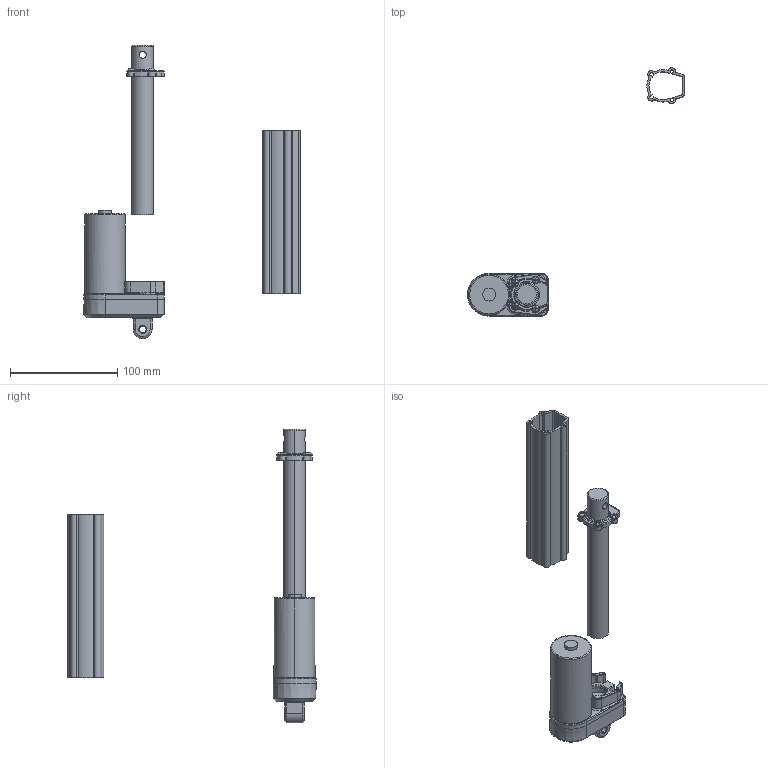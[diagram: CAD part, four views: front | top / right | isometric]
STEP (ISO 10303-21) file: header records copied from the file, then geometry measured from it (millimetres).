
FILE_DESCRIPTION(/* description */ ('Alibre Inc.'),/* implementation_level */ '2;1');
FILE_NAME(/* name */ 'export0',/* time_stamp */ '2008-04-02T09:31:47+02:00',/* author */ (''),/* organization */ (''),/* preprocessor_version */ 'ST-DEVELOPER v10',/* originating_system */ 'Alibre',/* authorisation */ '');
FILE_SCHEMA (('ALIBRE_SCHEMA','CONFIG_CONTROL_DESIGN'));
Length unit declared in the file: millimetre
Products named in the file (4): ID_1; ID_2; ID_3
Bounding box: 201.76 x 230.84 x 273.31 mm (x, y, z)
Volume: 210465.5 mm3; surface area: 85940.8 mm2
Topology: 3 solids, 3 shells, 638 faces, 1641 edges, 1013 vertices
Faces by surface type: cylinder 206, plane 181, torus 123, cone 102, bspline 24, sphere 2
Entity records: 44393 total; most frequent: CARTESIAN_POINT 11813, DIRECTION 6338, ORIENTED_EDGE 6276, EDGE_CURVE 3138, AXIS2_PLACEMENT_3D 2878, VERTEX_POINT 1938, CIRCLE 1640, EDGE_LOOP 1308
